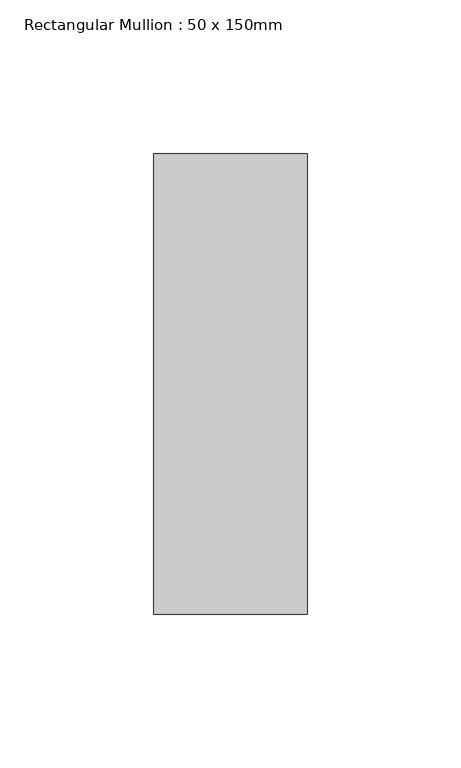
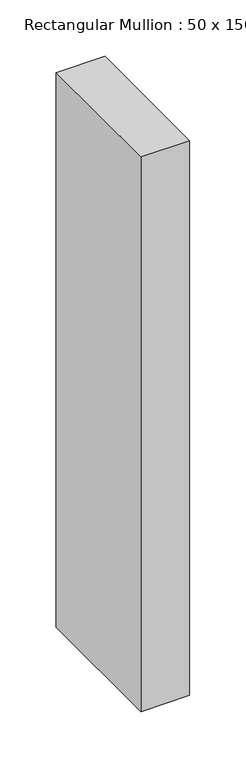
"""IFC4 building model written with IfcOpenShell, lengths in millimetres: member geometry, Rectangular Mullion : 50 x 150mm."""

from ifc_helpers import new_model, si_unit, frame, origin, place, context, project, spatial, polyline, outline, extrude, source, transform, mapped, element, save


def rectangular_mullion_50_x_150mm_68b3818a(model_context):
    return source(origin(), model_context, "Body", "SweptSolid", [
        extrude(outline(polyline([(25.0, 75.0), (25.0, -75.0), (-25.0, -75.0), (-25.0, 75.0), (25.0, 75.0)])), frame((0.0, 0.0, -600.0), z_axis=(0.0, 0.0, 1.0), x_axis=(1.0, 0.0, 0.0)), (0.0, 0.0, 1.0), 600.0),
    ])


if __name__ == "__main__":
    model = new_model("IFC4")
    model_context = context("Model", 3, world=origin())
    ifc_project = project(units=[si_unit("LENGTHUNIT", "METRE", prefix="MILLI")], contexts=[model_context])
    site = spatial("IfcSite", under=ifc_project)
    building = spatial("IfcBuilding", under=site)
    placement = place(None, origin())
    rectangular_mullion_50_x_150mm_shape = rectangular_mullion_50_x_150mm_68b3818a(model_context)
    element("IfcMember", 1, ObjectType="Rectangular Mullion : 50 x 150mm", at=placement, inside=building, context=model_context, shape_type="MappedRepresentation", body=[
        mapped(rectangular_mullion_50_x_150mm_shape, transform((0.0, 0.0, 0.0), x_axis=(1.0, 0.0, 0.0), y_axis=(0.0, 1.0, 0.0), z_axis=(0.0, 0.0, 1.0))),
    ])
    save(model, "model.ifc")
